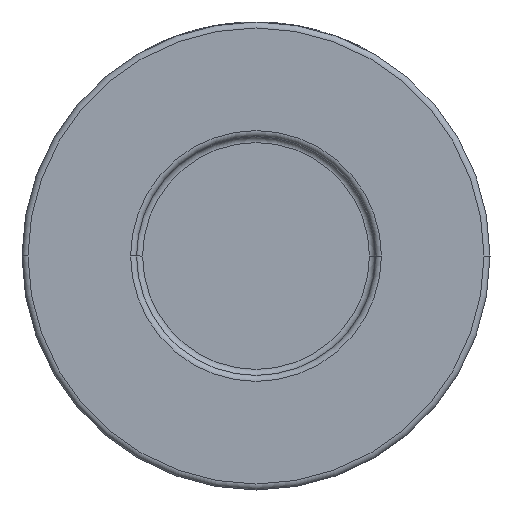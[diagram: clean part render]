
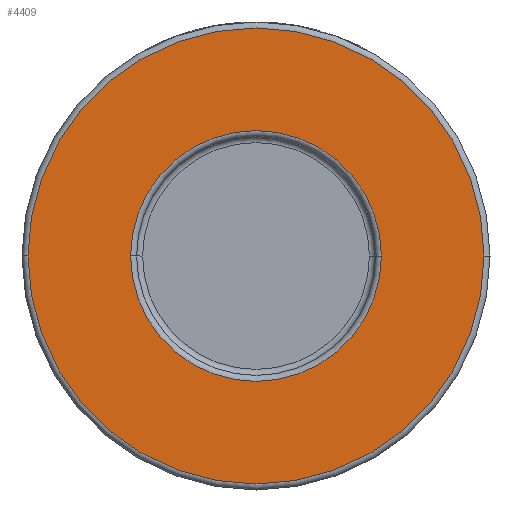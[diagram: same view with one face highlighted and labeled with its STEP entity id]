
A CAD part, front view. The second image highlights one B-rep face of the part: STEP entity #4409.
In plain terms, the highlighted planar face has unit normal (0, -1, 0).
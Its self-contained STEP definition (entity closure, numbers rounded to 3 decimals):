
#59 = DIRECTION ( 'NONE',  ( 1., 0., 0. ) ) ;
#115 = EDGE_CURVE ( 'NONE', #361, #189, #2247, .T. ) ;
#189 = VERTEX_POINT ( 'NONE', #2510 ) ;
#210 = CIRCLE ( 'NONE', #356, 38. ) ;
#251 = CARTESIAN_POINT ( 'NONE',  ( 0., -26., 0. ) ) ;
#356 = AXIS2_PLACEMENT_3D ( 'NONE', #1282, #1330, #2718 ) ;
#358 = VERTEX_POINT ( 'NONE', #899 ) ;
#361 = VERTEX_POINT ( 'NONE', #4111 ) ;
#407 = PLANE ( 'NONE',  #4264 ) ;
#455 = DIRECTION ( 'NONE',  ( 0., -1., 0. ) ) ;
#642 = ORIENTED_EDGE ( 'NONE', *, *, #1772, .T. ) ;
#732 = ORIENTED_EDGE ( 'NONE', *, *, #115, .T. ) ;
#814 = CARTESIAN_POINT ( 'NONE',  ( 39., -26., 0. ) ) ;
#899 = CARTESIAN_POINT ( 'NONE',  ( -38., -26., 0. ) ) ;
#1112 = DIRECTION ( 'NONE',  ( 1., 0., 0. ) ) ;
#1158 = CIRCLE ( 'NONE', #3752, 38. ) ;
#1198 = VERTEX_POINT ( 'NONE', #3400 ) ;
#1282 = CARTESIAN_POINT ( 'NONE',  ( 0., -26., 0. ) ) ;
#1330 = DIRECTION ( 'NONE',  ( 0., -1., 0. ) ) ;
#1533 = DIRECTION ( 'NONE',  ( 0., 1., 0. ) ) ;
#1657 = DIRECTION ( 'NONE',  ( 0., -1., 0. ) ) ;
#1772 = EDGE_CURVE ( 'NONE', #1198, #358, #210, .T. ) ;
#1982 = DIRECTION ( 'NONE',  ( 0., 1., 0. ) ) ;
#2004 = DIRECTION ( 'NONE',  ( 1., 0., 0. ) ) ;
#2142 = EDGE_CURVE ( 'NONE', #358, #1198, #1158, .T. ) ;
#2162 = FACE_BOUND ( 'NONE', #3897, .T. ) ;
#2247 = CIRCLE ( 'NONE', #3723, 20.9 ) ;
#2510 = CARTESIAN_POINT ( 'NONE',  ( 20.9, -26., 0. ) ) ;
#2684 = CARTESIAN_POINT ( 'NONE',  ( 0., -26., 0. ) ) ;
#2718 = DIRECTION ( 'NONE',  ( 1., 0., 0. ) ) ;
#2737 = ORIENTED_EDGE ( 'NONE', *, *, #2142, .T. ) ;
#3071 = DIRECTION ( 'NONE',  ( 1., 0., 0. ) ) ;
#3400 = CARTESIAN_POINT ( 'NONE',  ( 38., -26., 0. ) ) ;
#3465 = ORIENTED_EDGE ( 'NONE', *, *, #3586, .T. ) ;
#3572 = FACE_OUTER_BOUND ( 'NONE', #3878, .T. ) ;
#3586 = EDGE_CURVE ( 'NONE', #189, #361, #4564, .T. ) ;
#3723 = AXIS2_PLACEMENT_3D ( 'NONE', #2684, #1982, #2004 ) ;
#3752 = AXIS2_PLACEMENT_3D ( 'NONE', #251, #1657, #3071 ) ;
#3878 = EDGE_LOOP ( 'NONE', ( #642, #2737 ) ) ;
#3897 = EDGE_LOOP ( 'NONE', ( #3465, #732 ) ) ;
#4111 = CARTESIAN_POINT ( 'NONE',  ( -20.9, -26., 0. ) ) ;
#4117 = AXIS2_PLACEMENT_3D ( 'NONE', #4535, #1533, #1112 ) ;
#4264 = AXIS2_PLACEMENT_3D ( 'NONE', #814, #455, #59 ) ;
#4409 = ADVANCED_FACE ( 'NONE', ( #2162, #3572 ), #407, .T. ) ;
#4535 = CARTESIAN_POINT ( 'NONE',  ( 0., -26., 0. ) ) ;
#4564 = CIRCLE ( 'NONE', #4117, 20.9 ) ;
